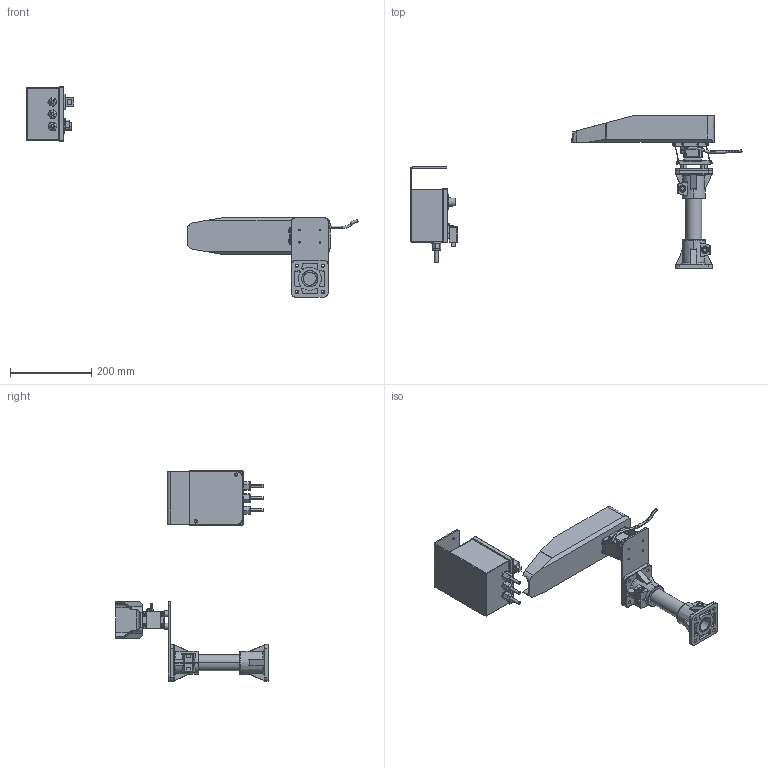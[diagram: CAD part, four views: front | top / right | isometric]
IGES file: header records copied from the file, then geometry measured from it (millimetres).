
Start section: SolidWorks IGES file using analytic representation for surfaces
Global section: file name: C:\Users\ufficiotecnico\OneDrive - Ars Srl\Desktop\Bulk Feeder 1,5lt V2.0.IGS; native system: SolidWorks 2020; preprocessor: SolidWorks 2020; author: ufficiotecnico; date: 211116.155314; units: millimetre
Bounding box: 815.92 x 374.02 x 516.48 mm (x, y, z)
Surface area: 545810.6 mm2 (no closed solid volume)
Topology: 0 solids, 0 shells, 1581 faces, 19273 edges, 19218 vertices
Faces by surface type: revolution 881, bspline 700
